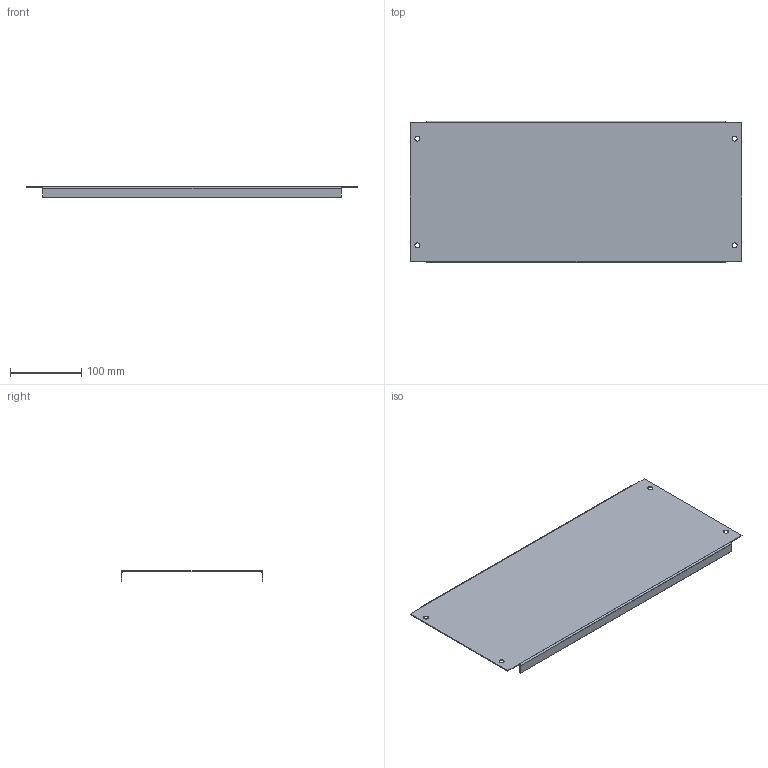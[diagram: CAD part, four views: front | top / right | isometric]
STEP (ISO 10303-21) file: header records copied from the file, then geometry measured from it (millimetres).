
FILE_DESCRIPTION (( 'STEP AP203' ), '1' );
FILE_NAME ('MB 20.50 Ïàíåëü ìîäóëüíàÿ.STEP', '2012-11-21T07:11:07', ( 'system' ), ( '' ), 'SwSTEP 2.0', 'SolidWorks 2012', '' );
FILE_SCHEMA (( 'CONFIG_CONTROL_DESIGN' ));
Length unit declared in the file: millimetre
Products named in the file (1): MB 20.50 Ïàíåëü ìîäóëüíàÿ
Bounding box: 465 x 199 x 15 mm (x, y, z)
Volume: 123692.7 mm3; surface area: 207916.2 mm2
Topology: 1 solids, 1 shells, 34 faces, 80 edges, 48 vertices
Faces by surface type: plane 22, cylinder 12
Entity records: 1053 total; most frequent: DIRECTION 174, CARTESIAN_POINT 163, ORIENTED_EDGE 160, EDGE_CURVE 80, AXIS2_PLACEMENT_3D 59, LINE 56, VECTOR 56, VERTEX_POINT 48
